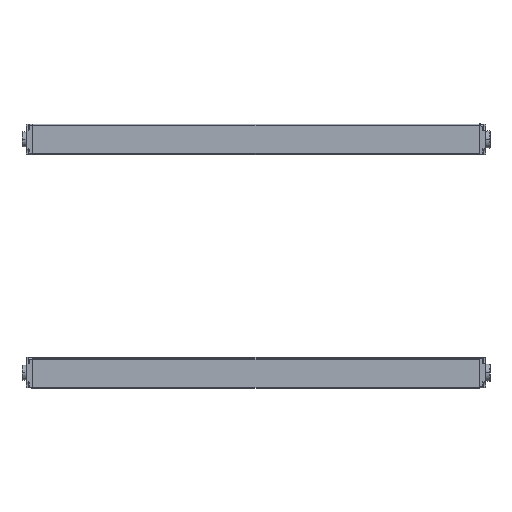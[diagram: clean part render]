
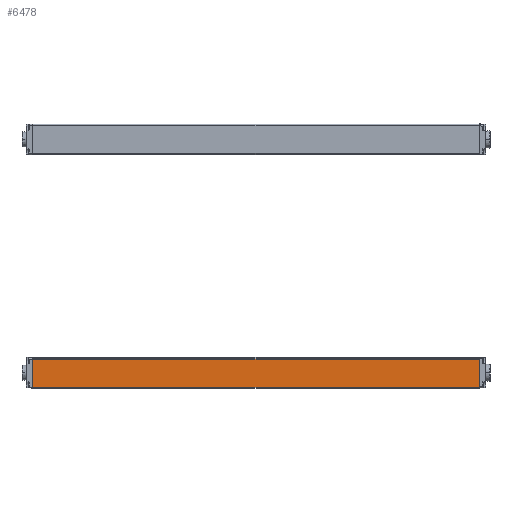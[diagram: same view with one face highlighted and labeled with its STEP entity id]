
A CAD part, left-side view. The second image highlights one B-rep face of the part: STEP entity #6478.
In plain terms, the highlighted planar face has unit normal (-1, 0, -0.009) as drawn and (1, 0, 0) by its records, which use the part's own axes.
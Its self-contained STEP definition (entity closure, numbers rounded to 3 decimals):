
#1720 = DIRECTION ( 'NONE',  ( 0., 1., 0. ) ) ;
#2154 = DIRECTION ( 'NONE',  ( 0., 0., 1. ) ) ;
#3259 = CARTESIAN_POINT ( 'NONE',  ( 15., 440., 10.9 ) ) ;
#3521 = PLANE ( 'NONE',  #11102 ) ;
#3939 = LINE ( 'NONE', #9489, #6287 ) ;
#4253 = DIRECTION ( 'NONE',  ( 0., -1., 0. ) ) ;
#4571 = LINE ( 'NONE', #10122, #8745 ) ;
#5547 = EDGE_CURVE ( 'NONE', #17037, #16430, #4571, .T. ) ;
#5633 = CARTESIAN_POINT ( 'NONE',  ( 15., 0., 10.9 ) ) ;
#5832 = EDGE_LOOP ( 'NONE', ( #14301, #12479, #7393, #8721 ) ) ;
#6287 = VECTOR ( 'NONE', #15046, 1000. ) ;
#6478 = ADVANCED_FACE ( 'NONE', ( #16005 ), #3521, .F. ) ;
#7393 = ORIENTED_EDGE ( 'NONE', *, *, #5547, .F. ) ;
#7550 = VERTEX_POINT ( 'NONE', #17017 ) ;
#8658 = LINE ( 'NONE', #14210, #12240 ) ;
#8721 = ORIENTED_EDGE ( 'NONE', *, *, #10877, .T. ) ;
#8745 = VECTOR ( 'NONE', #15676, 1000. ) ;
#8872 = VECTOR ( 'NONE', #4253, 1000. ) ;
#9084 = CARTESIAN_POINT ( 'NONE',  ( 15., 440., -16.9 ) ) ;
#9489 = CARTESIAN_POINT ( 'NONE',  ( 15., 0., -16.9 ) ) ;
#10122 = CARTESIAN_POINT ( 'NONE',  ( 15., 440., -16.9 ) ) ;
#10382 = VERTEX_POINT ( 'NONE', #5633 ) ;
#10877 = EDGE_CURVE ( 'NONE', #17037, #10382, #11175, .T. ) ;
#11102 = AXIS2_PLACEMENT_3D ( 'NONE', #9084, #14636, #2154 ) ;
#11175 = LINE ( 'NONE', #16736, #8872 ) ;
#12240 = VECTOR ( 'NONE', #1720, 1000. ) ;
#12479 = ORIENTED_EDGE ( 'NONE', *, *, #12560, .T. ) ;
#12560 = EDGE_CURVE ( 'NONE', #7550, #16430, #8658, .T. ) ;
#14210 = CARTESIAN_POINT ( 'NONE',  ( 15., 440., -16.693 ) ) ;
#14301 = ORIENTED_EDGE ( 'NONE', *, *, #15395, .T. ) ;
#14636 = DIRECTION ( 'NONE',  ( -1., 0., 0. ) ) ;
#15046 = DIRECTION ( 'NONE',  ( 0., 0., -1. ) ) ;
#15395 = EDGE_CURVE ( 'NONE', #10382, #7550, #3939, .T. ) ;
#15676 = DIRECTION ( 'NONE',  ( 0., 0., -1. ) ) ;
#16005 = FACE_OUTER_BOUND ( 'NONE', #5832, .T. ) ;
#16079 = CARTESIAN_POINT ( 'NONE',  ( 15., 440., -16.693 ) ) ;
#16430 = VERTEX_POINT ( 'NONE', #16079 ) ;
#16736 = CARTESIAN_POINT ( 'NONE',  ( 15., 440., 10.9 ) ) ;
#17017 = CARTESIAN_POINT ( 'NONE',  ( 15., 0., -16.693 ) ) ;
#17037 = VERTEX_POINT ( 'NONE', #3259 ) ;
